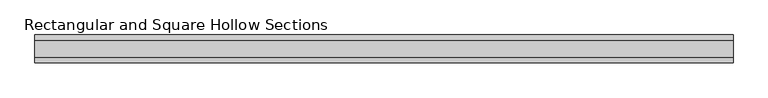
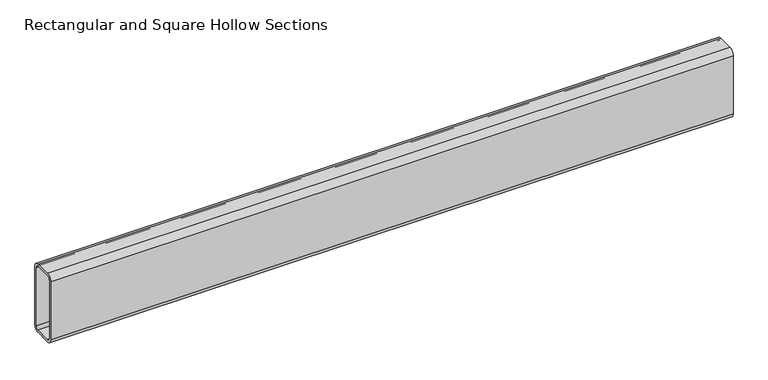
"""IFC4 building model written with IfcOpenShell, lengths in millimetres: beam geometry, Rectangular and Square Hollow Sections : TREC160x60x6."""

from ifc_helpers import new_model, si_unit, point, frame, frame_2d, origin, place, context, project, spatial, polyline, circle_curve, trimmed, segment, composite_curve, outline, extrude, source, transform, mapped, element, save


def rectangular_and_square_hollow_sections_d707e47e(model_context):
    return source(origin(), model_context, "Body", "SweptSolid", [
        extrude(outline(composite_curve([segment(polyline([(30.0, 68.0), (30.0, -68.0)]), True, "CONTINUOUS"), segment(trimmed(circle_curve(frame_2d((18.0, -68.0)), 12.0), [point((30.0, -68.0))], [point((18.0, -80.0))], False, "CARTESIAN"), True, "CONTINUOUS"), segment(polyline([(18.0, -80.0), (-18.0, -80.0)]), True, "CONTINUOUS"), segment(trimmed(circle_curve(frame_2d((-18.0, -68.0)), 12.0), [point((-18.0, -80.0))], [point((-30.0, -68.0))], False, "CARTESIAN"), True, "CONTINUOUS"), segment(polyline([(-30.0, -68.0), (-30.0, 68.0)]), True, "CONTINUOUS"), segment(trimmed(circle_curve(frame_2d((-18.0, 68.0)), 12.0), [point((-30.0, 68.0))], [point((-18.0, 80.0))], False, "CARTESIAN"), True, "CONTINUOUS"), segment(polyline([(-18.0, 80.0), (18.0, 80.0)]), True, "CONTINUOUS"), segment(trimmed(circle_curve(frame_2d((18.0, 68.0)), 12.0), [point((18.0, 80.0))], [point((30.0, 68.0))], False, "CARTESIAN"), True, "CONTINUOUS")], self_intersect=False), holes=[composite_curve([segment(trimmed(circle_curve(frame_2d((-18.0, 68.0)), 6.0), [point((-18.0, 74.0))], [point((-24.0, 68.0))], True, "CARTESIAN"), True, "CONTINUOUS"), segment(polyline([(-24.0, 68.0), (-24.0, -68.0)]), True, "CONTINUOUS"), segment(trimmed(circle_curve(frame_2d((-18.0, -68.0)), 6.0), [point((-24.0, -68.0))], [point((-18.0, -74.0))], True, "CARTESIAN"), True, "CONTINUOUS"), segment(polyline([(-18.0, -74.0), (18.0, -74.0)]), True, "CONTINUOUS"), segment(trimmed(circle_curve(frame_2d((18.0, -68.0)), 6.0), [point((18.0, -74.0))], [point((24.0, -68.0))], True, "CARTESIAN"), True, "CONTINUOUS"), segment(polyline([(24.0, -68.0), (24.0, 68.0)]), True, "CONTINUOUS"), segment(trimmed(circle_curve(frame_2d((18.0, 68.0)), 6.0), [point((24.0, 68.0))], [point((18.0, 74.0))], True, "CARTESIAN"), True, "CONTINUOUS"), segment(polyline([(18.0, 74.0), (-18.0, 74.0)]), True, "CONTINUOUS")], self_intersect=False)]), frame((-754.5, 0.0, 0.0), z_axis=(1.0, 0.0, 0.0), x_axis=(0.0, 1.0, 0.0)), (0.0, 0.0, 1.0), 1509.0),
    ])


if __name__ == "__main__":
    model = new_model("IFC4")
    model_context = context("Model", 3, world=origin())
    ifc_project = project(units=[si_unit("LENGTHUNIT", "METRE", prefix="MILLI")], contexts=[model_context])
    site = spatial("IfcSite", under=ifc_project)
    building = spatial("IfcBuilding", under=site)
    placement = place(None, origin())
    rectangular_and_square_hollow_sections_shape = rectangular_and_square_hollow_sections_d707e47e(model_context)
    element("IfcBeam", 1, ObjectType="Rectangular and Square Hollow Sections : TREC160x60x6", at=placement, inside=building, context=model_context, shape_type="MappedRepresentation", body=[
        mapped(rectangular_and_square_hollow_sections_shape, transform((0.0, 0.0, 0.0), x_axis=(1.0, 0.0, 0.0), y_axis=(0.0, 1.0, 0.0), z_axis=(0.0, 0.0, 1.0))),
    ])
    save(model, "model.ifc")
